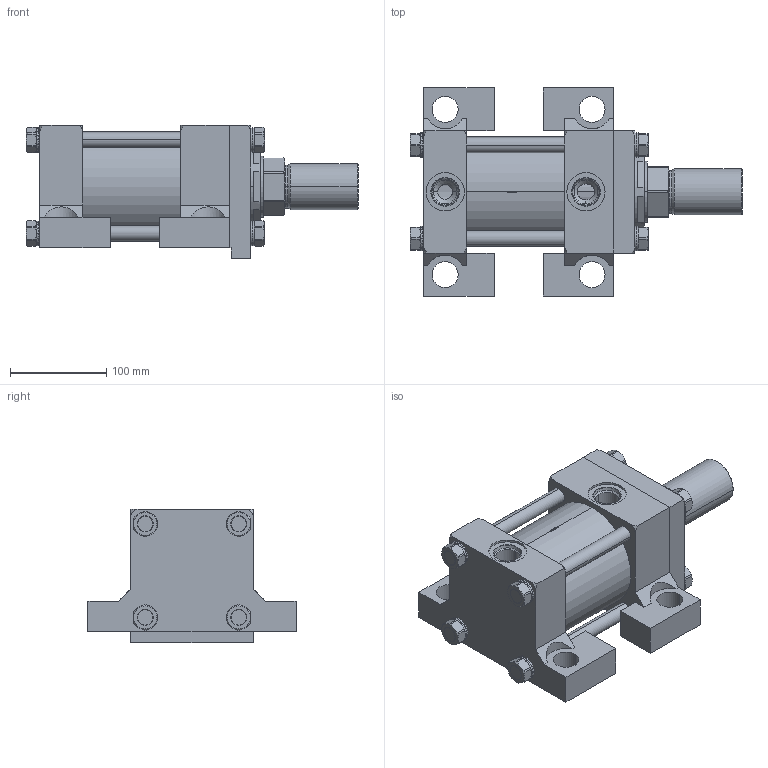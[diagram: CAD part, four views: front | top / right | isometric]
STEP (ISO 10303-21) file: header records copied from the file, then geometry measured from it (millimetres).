
FILE_DESCRIPTION (( 'STEP AP214' ), '1' );
FILE_NAME ('4.00CP2HHNAT124A2.000.step', '2026-03-26T21:16:05', ( '' ), ( '' ), 'SwSTEP 2.0', 'SolidWorks 2023', '' );
FILE_SCHEMA (( 'AUTOMOTIVE_DESIGN' ));
Length unit declared in the file: inch
Products named in the file (1): 4.00CP2HHNAT124A2.000
Bounding box: 344.49 x 215.9 x 138.11 mm (x, y, z)
Volume: 3261977.5 mm3; surface area: 517807.6 mm2
Topology: 44 solids, 44 shells, 1218 faces, 3144 edges, 2022 vertices
Faces by surface type: plane 808, cylinder 219, cone 161, bspline 22, torus 8
Entity records: 54919 total; most frequent: CARTESIAN_POINT 10670, ORIENTED_EDGE 6288, DIRECTION 5214, EDGE_CURVE 3144, VERTEX_POINT 2022, AXIS2_PLACEMENT_3D 1769, VECTOR 1676, LINE 1676
